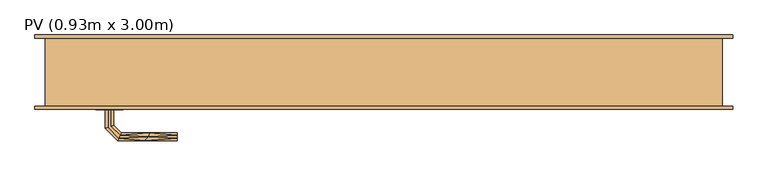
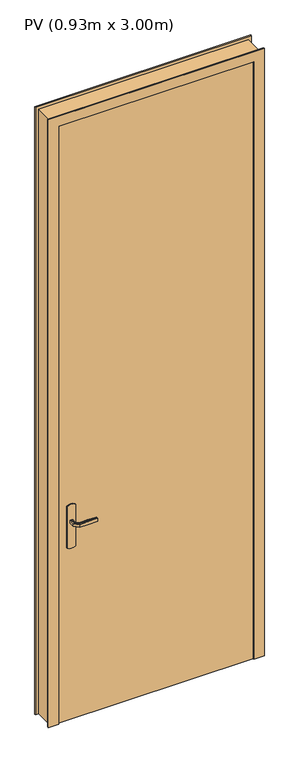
"""IFC4 building model written with IfcOpenShell, lengths in millimetres: door geometry, PV (0.93m x 3.00m)."""

from ifc_helpers import new_model, si_unit, frame, origin, origin_with_axes, place, context, project, spatial, polyline, outline, extrude, faceted_brep, source, transform, mapped, element, save


def pv_0_93m_x_3_00m_6f0f1dc9(model_context):
    return source(origin(), model_context, "Body", "SolidModel", [
        faceted_brep([(0.0, 100.0, 0.0), (-15.0, 100.0, 0.0), (-15.0, 105.0, 0.0), (50.0, 105.0, 0.0), (50.0, 40.0, 0.0), (35.0, 40.0, 0.0), (35.0, -5.0, 0.0), (-15.0, -5.0, 0.0), (-15.0, 0.0, 0.0), (0.0, 0.0, 0.0), (0.0, 100.0, 3045.0), (1000.0, 100.0, 3045.0), (1000.0, 100.0, 0.0), (1015.0, 100.0, 0.0), (1015.0, 100.0, 3060.0), (-15.0, 100.0, 3060.0), (-15.0, 105.0, 3060.0), (1015.0, 105.0, 3060.0), (1015.0, 105.0, 0.0), (950.0, 105.0, 0.0), (950.0, 105.0, 2995.0), (50.0, 105.0, 2995.0), (50.0, 40.0, 2995.0), (950.0, 40.0, 2995.0), (950.0, 40.0, 0.0), (965.0, 40.0, 0.0), (965.0, 40.0, 3010.0), (35.0, 40.0, 3010.0), (35.0, -5.0, 3010.0), (965.0, -5.0, 3010.0), (965.0, -5.0, 0.0), (1015.0, -5.0, 0.0), (1015.0, -5.0, 3060.0), (-15.0, -5.0, 3060.0), (-15.0, 0.0, 3060.0), (1015.0, 0.0, 3060.0), (1015.0, 0.0, 0.0), (1000.0, 0.0, 0.0), (1000.0, 0.0, 3045.0), (0.0, 0.0, 3045.0)], [[[0, 1, 2, 3, 4, 5, 6, 7, 8, 9]], [[1, 0, 10, 11, 12, 13, 14, 15]], [[2, 1, 15, 16]], [[3, 2, 16, 17, 18, 19, 20, 21]], [[3, 21, 22, 4]], [[5, 4, 22, 23, 24, 25, 26, 27]], [[5, 27, 28, 6]], [[7, 6, 28, 29, 30, 31, 32, 33]], [[8, 7, 33, 34]], [[9, 8, 34, 35, 36, 37, 38, 39]], [[0, 9, 39, 10]], [[11, 38, 37, 12]], [[12, 37, 36, 31, 30, 25, 24, 19, 18, 13]], [[17, 14, 13, 18]], [[23, 20, 19, 24]], [[29, 26, 25, 30]], [[35, 32, 31, 36]], [[10, 39, 38, 11]], [[16, 15, 14, 17]], [[22, 21, 20, 23]], [[28, 27, 26, 29]], [[34, 33, 32, 35]]]),
        extrude(outline(polyline([(866.0039831, 105.3527618), (870.0, 115.0), (1080.0, 115.0), (1083.9960169, 105.3527618), (1085.3589838, 95.0), (1083.9960169, 84.6472382), (1080.0, 75.0), (870.0, 75.0), (866.0039831, 84.6472382), (864.6410162, 95.0), (866.0039831, 105.3527618)])), frame((0.0, 40.0, 0.0), z_axis=(0.0, 1.0, 0.0), x_axis=(0.0, 0.0, 1.0)), (0.0, 0.0, 1.0), 5.0),
        extrude(outline(polyline([(866.0039831, 105.3527618), (870.0, 115.0), (1080.0, 115.0), (1083.9960169, 105.3527618), (1085.3589838, 95.0), (1083.9960169, 84.6472382), (1080.0, 75.0), (870.0, 75.0), (866.0039831, 84.6472382), (864.6410162, 95.0), (866.0039831, 105.3527618)])), frame((0.0, -5.0, 0.0), z_axis=(0.0, 1.0, 0.0), x_axis=(0.0, 0.0, 1.0)), (0.0, 0.0, 1.0), 5.0),
        extrude(outline(polyline([(35.0, 40.0), (965.0, 40.0), (965.0, 0.0), (35.0, 0.0), (35.0, 40.0)])), origin_with_axes(), (0.0, 0.0, 1.0), 3010.0),
        faceted_brep([(92.9747013, 45.0, 1007.7804408), (89.0, 45.0, 1007.0), (89.0, 45.0, 993.0), (92.9747013, 45.0, 992.2195592), (97.0252987, 45.0, 992.2195592), (101.0, 45.0, 993.0), (101.0, 45.0, 1007.0), (97.0252987, 45.0, 1007.7804408), (101.0, 67.4852045, 993.0), (101.0, 67.4852045, 1007.0), (97.0252987, 69.1315797, 1007.7804408), (110.8389062, 82.9451872, 1007.7804408), (109.1610938, 86.9957845, 1007.7804408), (92.9747013, 70.8093921, 1007.7804408), (89.0, 72.4557673, 1007.0), (89.0, 72.4557673, 993.0), (92.9747013, 70.8093921, 992.2195592), (109.1610938, 86.9957845, 992.2195592), (110.8389062, 82.9451872, 992.2195592), (97.0252987, 69.1315797, 992.2195592), (112.4852814, 78.9704859, 993.0), (112.4852814, 78.9704859, 1007.0), (107.5147186, 90.9704859, 1007.0), (107.5147186, 90.9704859, 993.0), (195.0457837, 78.9704859, 993.0), (195.0457837, 82.9451872, 992.2195592), (195.0457837, 86.9957845, 992.2195592), (195.0457837, 90.9704859, 993.0), (195.0457837, 90.9704859, 1007.0), (195.0457837, 86.9957845, 1007.7804408), (195.0457837, 82.9451872, 1007.7804408), (195.0457837, 78.9704859, 1007.0), (153.7655206, 78.9704859, 993.0), (153.7655325, 78.9704859, 1007.0), (152.9423449, 84.9704859, 1007.8786868), (147.4452058, 90.9704859, 1007.0), (147.4452043, 90.9704859, 993.0), (152.9423451, 84.9704858, 992.1213132)], [[[0, 1, 2, 3, 4, 5, 6, 7]], [[6, 5, 8, 9]], [[9, 10, 7, 6]], [[10, 11, 12, 13, 0, 7]], [[13, 14, 1, 0]], [[2, 1, 14, 15]], [[15, 16, 3, 2]], [[16, 17, 18, 19, 4, 3]], [[19, 8, 5, 4]], [[9, 8, 20, 21]], [[21, 11, 10, 9]], [[12, 22, 14, 13]], [[15, 14, 22, 23]], [[23, 17, 16, 15]], [[18, 20, 8, 19]], [[24, 25, 26, 27, 28, 29, 30, 31]], [[21, 20, 32, 24, 31, 33]], [[33, 30, 34]], [[35, 34, 29]], [[21, 33, 11]], [[33, 31, 30]], [[28, 35, 29]], [[22, 12, 35]], [[35, 12, 34]], [[12, 11, 34]], [[11, 33, 34]], [[29, 34, 30]], [[22, 35, 28, 27, 36, 23]], [[36, 26, 37]], [[27, 26, 36]], [[17, 23, 36]], [[37, 32, 18]], [[20, 18, 32]], [[32, 25, 24]], [[26, 25, 37]], [[25, 32, 37]], [[17, 36, 37]], [[17, 37, 18]]]),
        faceted_brep([(92.9747013, -5.0, 1007.7804408), (97.0252987, -5.0, 1007.7804408), (101.0, -5.0, 1007.0), (101.0, -5.0, 993.0), (97.0252987, -5.0, 992.2195592), (92.9747013, -5.0, 992.2195592), (89.0, -5.0, 993.0), (89.0, -5.0, 1007.0), (89.0, -32.6509507, 1007.0), (92.9747013, -31.0045755, 1007.7804408), (109.0235852, -47.0534593, 1007.7804408), (110.7013975, -43.002862, 1007.7804408), (97.0252987, -29.3267632, 1007.7804408), (101.0, -27.680388, 1007.0), (101.0, -27.680388, 993.0), (97.0252987, -29.3267632, 992.2195592), (110.7013975, -43.002862, 992.2195592), (109.0235852, -47.0534593, 992.2195592), (92.9747013, -31.0045755, 992.2195592), (89.0, -32.6509507, 993.0), (107.37721, -51.0281607, 1007.0), (112.3477727, -39.0281607, 1007.0), (112.3477727, -39.0281607, 993.0), (107.37721, -51.0281607, 993.0), (195.0186406, -51.0281607, 993.0), (195.0186406, -47.0534593, 992.2195592), (195.0186406, -43.002862, 992.2195592), (195.0186406, -39.0281607, 993.0), (195.0186406, -39.0281607, 1007.0), (195.0186406, -43.002862, 1007.7804408), (195.0186406, -47.0534593, 1007.7804408), (195.0186406, -51.0281607, 1007.0), (147.3076972, -51.0281607, 1007.0), (152.8600191, -45.0281607, 1007.8786868), (153.6832067, -39.0281607, 1007.0), (153.6832067, -39.0281607, 993.0), (152.8600189, -45.0281608, 992.1213132), (147.3077002, -51.0281607, 993.0)], [[[0, 1, 2, 3, 4, 5, 6, 7]], [[8, 9, 0, 7]], [[9, 10, 11, 12, 1, 0]], [[12, 13, 2, 1]], [[3, 2, 13, 14]], [[14, 15, 4, 3]], [[15, 16, 17, 18, 5, 4]], [[18, 19, 6, 5]], [[7, 6, 19, 8]], [[20, 10, 9, 8]], [[11, 21, 13, 12]], [[14, 13, 21, 22]], [[22, 16, 15, 14]], [[17, 23, 19, 18]], [[8, 19, 23, 20]], [[24, 25, 26, 27, 28, 29, 30, 31]], [[32, 30, 33]], [[31, 30, 32]], [[10, 20, 32]], [[33, 34, 11]], [[21, 11, 34]], [[34, 29, 28]], [[30, 29, 33]], [[29, 34, 33]], [[10, 32, 33]], [[10, 33, 11]], [[22, 21, 34, 28, 27, 35]], [[35, 26, 36]], [[37, 36, 25]], [[22, 35, 16]], [[35, 27, 26]], [[24, 37, 25]], [[23, 17, 37]], [[37, 17, 36]], [[17, 16, 36]], [[16, 35, 36]], [[25, 36, 26]], [[20, 23, 37, 24, 31, 32]]]),
    ])


if __name__ == "__main__":
    model = new_model("IFC4")
    model_context = context("Model", 3, world=origin())
    ifc_project = project(units=[si_unit("LENGTHUNIT", "METRE", prefix="MILLI")], contexts=[model_context])
    site = spatial("IfcSite", under=ifc_project)
    building = spatial("IfcBuilding", under=site)
    placement = place(None, origin())
    pv_0_93m_x_3_00m_shape = pv_0_93m_x_3_00m_6f0f1dc9(model_context)
    element("IfcDoor", 1, ObjectType="PV (0.93m x 3.00m)", at=placement, inside=building, context=model_context, shape_type="MappedRepresentation", body=[
        mapped(pv_0_93m_x_3_00m_shape, transform((0.0, 0.0, 0.0), x_axis=(1.0, 0.0, 0.0), y_axis=(0.0, 1.0, 0.0), z_axis=(0.0, 0.0, 1.0))),
    ])
    save(model, "model.ifc")
